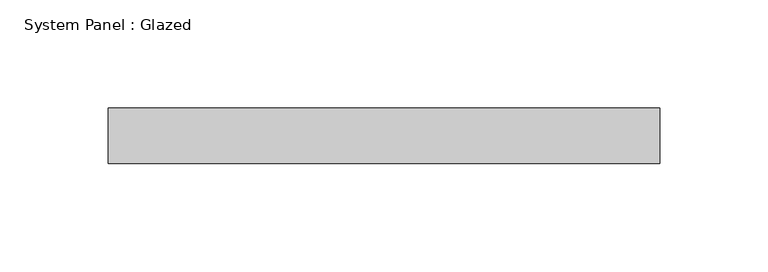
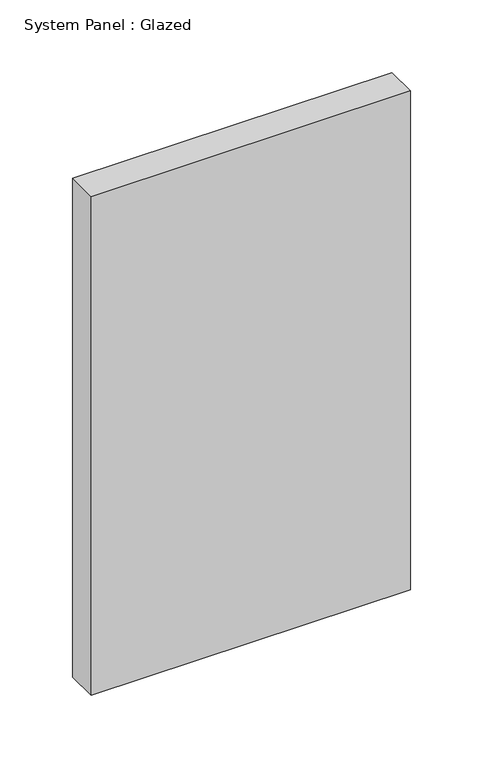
"""IFC4 building model written with IfcOpenShell, lengths in millimetres: plate geometry, System Panel : Glazed."""

from ifc_helpers import new_model, si_unit, origin, origin_with_axes, place, context, project, spatial, polyline, outline, extrude, source, transform, mapped, element, save


def system_panel_glazed_24e80516(model_context):
    return source(origin(), model_context, "Body", "SweptSolid", [
        extrude(outline(polyline([(126.9999998, -44.45), (-126.9999998, -44.45), (-126.9999998, -19.05), (126.9999998, -19.05), (126.9999998, -44.45)])), origin_with_axes(), (0.0, 0.0, 1.0), 419.1),
    ])


if __name__ == "__main__":
    model = new_model("IFC4")
    model_context = context("Model", 3, world=origin())
    ifc_project = project(units=[si_unit("LENGTHUNIT", "METRE", prefix="MILLI")], contexts=[model_context])
    site = spatial("IfcSite", under=ifc_project)
    building = spatial("IfcBuilding", under=site)
    placement = place(None, origin())
    system_panel_glazed_shape = system_panel_glazed_24e80516(model_context)
    element("IfcPlate", 1, ObjectType="System Panel : Glazed", at=placement, inside=building, context=model_context, shape_type="MappedRepresentation", body=[
        mapped(system_panel_glazed_shape, transform((0.0, 0.0, 0.0), x_axis=(1.0, 0.0, 0.0), y_axis=(0.0, 1.0, 0.0), z_axis=(0.0, 0.0, 1.0))),
    ])
    save(model, "model.ifc")
